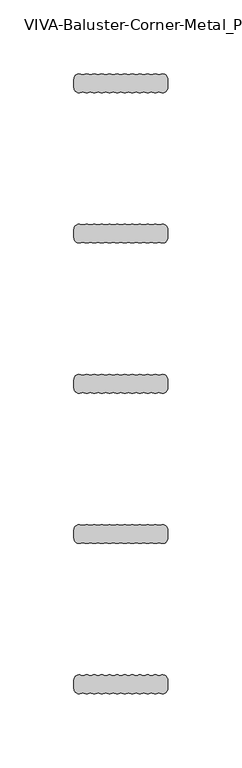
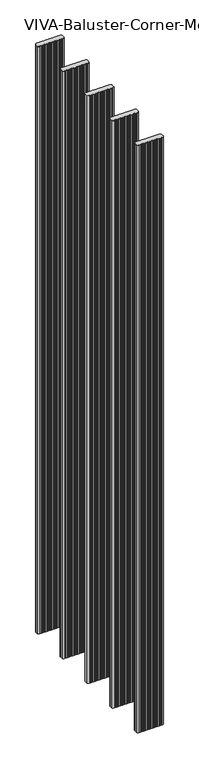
"""IFC4 building model written with IfcOpenShell, lengths in millimetres: railing geometry, VIVA-Baluster-Corner-Metal_Picket : OR1."""

from ifc_helpers import new_model, si_unit, point, frame, frame_2d, origin, place, context, project, spatial, polyline, circle_curve, trimmed, segment, composite_curve, outline, extrude, source, transform, mapped, element, save


def viva_baluster_corner_metal_picket_or1_d017c051(model_context):
    return source(origin(), model_context, "Body", "SweptSolid", [
        extrude(outline(composite_curve([segment(trimmed(circle_curve(frame_2d((53.2043012, -120.5449852)), 3.4374084), [point((51.9173652, -117.3575768))], [point((56.6417096, -120.5449852))], False, "CARTESIAN"), True, "CONTINUOUS"), segment(polyline([(56.6417096, -120.5449852), (56.6417096, -126.3701683)]), True, "CONTINUOUS"), segment(trimmed(circle_curve(frame_2d((53.2043012, -126.3701683)), 3.4374084), [point((56.6417096, -126.3701683))], [point((51.9173652, -129.5575768))], False, "CARTESIAN"), True, "CONTINUOUS"), segment(trimmed(circle_curve(frame_2d((50.6304292, -132.7449852)), 3.4374084), [point((51.9173652, -129.5575768))], [point((49.3434933, -129.5575768))], True, "CARTESIAN"), True, "CONTINUOUS"), segment(trimmed(circle_curve(frame_2d((48.0565573, -126.3701683)), 3.4374084), [point((49.3434933, -129.5575768))], [point((46.7696213, -129.5575768))], False, "CARTESIAN"), True, "CONTINUOUS"), segment(trimmed(circle_curve(frame_2d((45.4826853, -132.7449852)), 3.4374084), [point((46.7696213, -129.5575768))], [point((44.1957493, -129.5575768))], True, "CARTESIAN"), True, "CONTINUOUS"), segment(trimmed(circle_curve(frame_2d((42.9088134, -126.3701683)), 3.4374084), [point((44.1957493, -129.5575768))], [point((41.6218774, -129.5575768))], False, "CARTESIAN"), True, "CONTINUOUS"), segment(trimmed(circle_curve(frame_2d((40.3349414, -132.7449852)), 3.4374084), [point((41.6218774, -129.5575768))], [point((39.0480054, -129.5575768))], True, "CARTESIAN"), True, "CONTINUOUS"), segment(trimmed(circle_curve(frame_2d((37.7610694, -126.3701683)), 3.4374084), [point((39.0480054, -129.5575768))], [point((36.4741335, -129.5575768))], False, "CARTESIAN"), True, "CONTINUOUS"), segment(trimmed(circle_curve(frame_2d((35.1871975, -132.7449852)), 3.4374084), [point((36.4741335, -129.5575768))], [point((33.9002615, -129.5575768))], True, "CARTESIAN"), True, "CONTINUOUS"), segment(trimmed(circle_curve(frame_2d((32.6133255, -126.3701683)), 3.4374084), [point((33.9002615, -129.5575768))], [point((31.3263895, -129.5575768))], False, "CARTESIAN"), True, "CONTINUOUS"), segment(trimmed(circle_curve(frame_2d((30.0394536, -132.7449852)), 3.4374084), [point((31.3263895, -129.5575768))], [point((28.7525176, -129.5575768))], True, "CARTESIAN"), True, "CONTINUOUS"), segment(trimmed(circle_curve(frame_2d((27.4655816, -126.3701683)), 3.4374084), [point((28.7525176, -129.5575768))], [point((26.1786456, -129.5575768))], False, "CARTESIAN"), True, "CONTINUOUS"), segment(trimmed(circle_curve(frame_2d((24.8917096, -132.7449852)), 3.4374084), [point((26.1786456, -129.5575768))], [point((23.6047737, -129.5575768))], True, "CARTESIAN"), True, "CONTINUOUS"), segment(trimmed(circle_curve(frame_2d((22.3178377, -126.3701683)), 3.4374084), [point((23.6047737, -129.5575768))], [point((21.0309017, -129.5575768))], False, "CARTESIAN"), True, "CONTINUOUS"), segment(trimmed(circle_curve(frame_2d((19.7439657, -132.7449852)), 3.4374084), [point((21.0309017, -129.5575768))], [point((18.4570297, -129.5575768))], True, "CARTESIAN"), True, "CONTINUOUS"), segment(trimmed(circle_curve(frame_2d((17.1700938, -126.3701683)), 3.4374084), [point((18.4570297, -129.5575768))], [point((15.8831578, -129.5575768))], False, "CARTESIAN"), True, "CONTINUOUS"), segment(trimmed(circle_curve(frame_2d((14.5962218, -132.7449852)), 3.4374084), [point((15.8831578, -129.5575768))], [point((13.3092858, -129.5575768))], True, "CARTESIAN"), True, "CONTINUOUS"), segment(trimmed(circle_curve(frame_2d((12.0223498, -126.3701683)), 3.4374084), [point((13.3092858, -129.5575768))], [point((10.7354139, -129.5575768))], False, "CARTESIAN"), True, "CONTINUOUS"), segment(trimmed(circle_curve(frame_2d((9.4484779, -132.7449852)), 3.4374084), [point((10.7354139, -129.5575768))], [point((8.1615419, -129.5575768))], True, "CARTESIAN"), True, "CONTINUOUS"), segment(trimmed(circle_curve(frame_2d((6.8746059, -126.3701683)), 3.4374084), [point((8.1615419, -129.5575768))], [point((5.5876699, -129.5575768))], False, "CARTESIAN"), True, "CONTINUOUS"), segment(trimmed(circle_curve(frame_2d((4.3007339, -132.7449852)), 3.4374084), [point((5.5876699, -129.5575768))], [point((3.013798, -129.5575768))], True, "CARTESIAN"), True, "CONTINUOUS"), segment(trimmed(circle_curve(frame_2d((1.726862, -126.3701683)), 3.4374084), [point((3.013798, -129.5575768))], [point((0.439926, -129.5575768))], False, "CARTESIAN"), True, "CONTINUOUS"), segment(trimmed(circle_curve(frame_2d((-0.84701, -132.7449852)), 3.4374084), [point((0.439926, -129.5575768))], [point((-2.133946, -129.5575768))], True, "CARTESIAN"), True, "CONTINUOUS"), segment(trimmed(circle_curve(frame_2d((-3.4208819, -126.3701683)), 3.4374084), [point((-2.133946, -129.5575768))], [point((-6.8582904, -126.3701683))], False, "CARTESIAN"), True, "CONTINUOUS"), segment(polyline([(-6.8582904, -126.3701683), (-6.8582904, -120.5449852)]), True, "CONTINUOUS"), segment(trimmed(circle_curve(frame_2d((-3.4208819, -120.5449852)), 3.4374084), [point((-6.8582904, -120.5449852))], [point((-2.133946, -117.3575768))], False, "CARTESIAN"), True, "CONTINUOUS"), segment(trimmed(circle_curve(frame_2d((-0.84701, -114.1701684)), 3.4374084), [point((-2.133946, -117.3575768))], [point((0.439926, -117.3575768))], True, "CARTESIAN"), True, "CONTINUOUS"), segment(trimmed(circle_curve(frame_2d((1.726862, -120.5449852)), 3.4374084), [point((0.439926, -117.3575768))], [point((3.013798, -117.3575768))], False, "CARTESIAN"), True, "CONTINUOUS"), segment(trimmed(circle_curve(frame_2d((4.3007339, -114.1701684)), 3.4374084), [point((3.013798, -117.3575768))], [point((5.5876699, -117.3575768))], True, "CARTESIAN"), True, "CONTINUOUS"), segment(trimmed(circle_curve(frame_2d((6.8746059, -120.5449852)), 3.4374084), [point((5.5876699, -117.3575768))], [point((8.1615419, -117.3575768))], False, "CARTESIAN"), True, "CONTINUOUS"), segment(trimmed(circle_curve(frame_2d((9.4484779, -114.1701684)), 3.4374084), [point((8.1615419, -117.3575768))], [point((10.7354139, -117.3575768))], True, "CARTESIAN"), True, "CONTINUOUS"), segment(trimmed(circle_curve(frame_2d((12.0223498, -120.5449852)), 3.4374084), [point((10.7354139, -117.3575768))], [point((13.3092858, -117.3575768))], False, "CARTESIAN"), True, "CONTINUOUS"), segment(trimmed(circle_curve(frame_2d((14.5962218, -114.1701684)), 3.4374084), [point((13.3092858, -117.3575768))], [point((15.8831578, -117.3575768))], True, "CARTESIAN"), True, "CONTINUOUS"), segment(trimmed(circle_curve(frame_2d((17.1700938, -120.5449852)), 3.4374084), [point((15.8831578, -117.3575768))], [point((18.4570297, -117.3575768))], False, "CARTESIAN"), True, "CONTINUOUS"), segment(trimmed(circle_curve(frame_2d((19.7439657, -114.1701684)), 3.4374084), [point((18.4570297, -117.3575768))], [point((21.0309017, -117.3575768))], True, "CARTESIAN"), True, "CONTINUOUS"), segment(trimmed(circle_curve(frame_2d((22.3178377, -120.5449852)), 3.4374084), [point((21.0309017, -117.3575768))], [point((23.6047737, -117.3575768))], False, "CARTESIAN"), True, "CONTINUOUS"), segment(trimmed(circle_curve(frame_2d((24.8917096, -114.1701684)), 3.4374084), [point((23.6047737, -117.3575768))], [point((26.1786456, -117.3575768))], True, "CARTESIAN"), True, "CONTINUOUS"), segment(trimmed(circle_curve(frame_2d((27.4655816, -120.5449852)), 3.4374084), [point((26.1786456, -117.3575768))], [point((28.7525176, -117.3575768))], False, "CARTESIAN"), True, "CONTINUOUS"), segment(trimmed(circle_curve(frame_2d((30.0394536, -114.1701683)), 3.4374084), [point((28.7525176, -117.3575768))], [point((31.3263895, -117.3575768))], True, "CARTESIAN"), True, "CONTINUOUS"), segment(trimmed(circle_curve(frame_2d((32.6133255, -120.5449852)), 3.4374084), [point((31.3263895, -117.3575768))], [point((33.9002615, -117.3575768))], False, "CARTESIAN"), True, "CONTINUOUS"), segment(trimmed(circle_curve(frame_2d((35.1871975, -114.1701683)), 3.4374084), [point((33.9002615, -117.3575768))], [point((36.4741335, -117.3575768))], True, "CARTESIAN"), True, "CONTINUOUS"), segment(trimmed(circle_curve(frame_2d((37.7610694, -120.5449852)), 3.4374084), [point((36.4741335, -117.3575768))], [point((39.0480054, -117.3575768))], False, "CARTESIAN"), True, "CONTINUOUS"), segment(trimmed(circle_curve(frame_2d((40.3349414, -114.1701683)), 3.4374084), [point((39.0480054, -117.3575768))], [point((41.6218774, -117.3575768))], True, "CARTESIAN"), True, "CONTINUOUS"), segment(trimmed(circle_curve(frame_2d((42.9088134, -120.5449852)), 3.4374085), [point((41.6218774, -117.3575768))], [point((44.1957493, -117.3575768))], False, "CARTESIAN"), True, "CONTINUOUS"), segment(trimmed(circle_curve(frame_2d((45.4826853, -114.1701683)), 3.4374084), [point((44.1957493, -117.3575768))], [point((46.7696213, -117.3575768))], True, "CARTESIAN"), True, "CONTINUOUS"), segment(trimmed(circle_curve(frame_2d((48.0565573, -120.5449852)), 3.4374084), [point((46.7696213, -117.3575768))], [point((49.3434933, -117.3575768))], False, "CARTESIAN"), True, "CONTINUOUS"), segment(trimmed(circle_curve(frame_2d((50.6304292, -114.1701683)), 3.4374084), [point((49.3434933, -117.3575768))], [point((51.9173652, -117.3575768))], True, "CARTESIAN"), True, "CONTINUOUS")], self_intersect=False)), frame((0.0, 0.0, -245.8945017), z_axis=(0.0, 0.0, 1.0), x_axis=(1.0, 0.0, 0.0)), (0.0, 0.0, 1.0), 1465.0945017),
        extrude(outline(composite_curve([segment(trimmed(circle_curve(frame_2d((53.2043012, -18.9449852)), 3.4374084), [point((51.9173652, -15.7575768))], [point((56.6417096, -18.9449852))], False, "CARTESIAN"), True, "CONTINUOUS"), segment(polyline([(56.6417096, -18.9449852), (56.6417096, -24.7701683)]), True, "CONTINUOUS"), segment(trimmed(circle_curve(frame_2d((53.2043012, -24.7701683)), 3.4374084), [point((56.6417096, -24.7701683))], [point((51.9173652, -27.9575768))], False, "CARTESIAN"), True, "CONTINUOUS"), segment(trimmed(circle_curve(frame_2d((50.6304292, -31.1449852)), 3.4374084), [point((51.9173652, -27.9575768))], [point((49.3434933, -27.9575768))], True, "CARTESIAN"), True, "CONTINUOUS"), segment(trimmed(circle_curve(frame_2d((48.0565573, -24.7701683)), 3.4374084), [point((49.3434933, -27.9575768))], [point((46.7696213, -27.9575768))], False, "CARTESIAN"), True, "CONTINUOUS"), segment(trimmed(circle_curve(frame_2d((45.4826853, -31.1449852)), 3.4374084), [point((46.7696213, -27.9575768))], [point((44.1957493, -27.9575768))], True, "CARTESIAN"), True, "CONTINUOUS"), segment(trimmed(circle_curve(frame_2d((42.9088134, -24.7701683)), 3.4374084), [point((44.1957493, -27.9575768))], [point((41.6218774, -27.9575768))], False, "CARTESIAN"), True, "CONTINUOUS"), segment(trimmed(circle_curve(frame_2d((40.3349414, -31.1449852)), 3.4374084), [point((41.6218774, -27.9575768))], [point((39.0480054, -27.9575768))], True, "CARTESIAN"), True, "CONTINUOUS"), segment(trimmed(circle_curve(frame_2d((37.7610694, -24.7701683)), 3.4374084), [point((39.0480054, -27.9575768))], [point((36.4741335, -27.9575768))], False, "CARTESIAN"), True, "CONTINUOUS"), segment(trimmed(circle_curve(frame_2d((35.1871975, -31.1449852)), 3.4374084), [point((36.4741335, -27.9575768))], [point((33.9002615, -27.9575768))], True, "CARTESIAN"), True, "CONTINUOUS"), segment(trimmed(circle_curve(frame_2d((32.6133255, -24.7701683)), 3.4374084), [point((33.9002615, -27.9575768))], [point((31.3263895, -27.9575768))], False, "CARTESIAN"), True, "CONTINUOUS"), segment(trimmed(circle_curve(frame_2d((30.0394536, -31.1449852)), 3.4374084), [point((31.3263895, -27.9575768))], [point((28.7525176, -27.9575768))], True, "CARTESIAN"), True, "CONTINUOUS"), segment(trimmed(circle_curve(frame_2d((27.4655816, -24.7701683)), 3.4374084), [point((28.7525176, -27.9575768))], [point((26.1786456, -27.9575768))], False, "CARTESIAN"), True, "CONTINUOUS"), segment(trimmed(circle_curve(frame_2d((24.8917096, -31.1449852)), 3.4374084), [point((26.1786456, -27.9575768))], [point((23.6047737, -27.9575768))], True, "CARTESIAN"), True, "CONTINUOUS"), segment(trimmed(circle_curve(frame_2d((22.3178377, -24.7701683)), 3.4374084), [point((23.6047737, -27.9575768))], [point((21.0309017, -27.9575768))], False, "CARTESIAN"), True, "CONTINUOUS"), segment(trimmed(circle_curve(frame_2d((19.7439657, -31.1449852)), 3.4374084), [point((21.0309017, -27.9575768))], [point((18.4570297, -27.9575768))], True, "CARTESIAN"), True, "CONTINUOUS"), segment(trimmed(circle_curve(frame_2d((17.1700938, -24.7701683)), 3.4374084), [point((18.4570297, -27.9575768))], [point((15.8831578, -27.9575768))], False, "CARTESIAN"), True, "CONTINUOUS"), segment(trimmed(circle_curve(frame_2d((14.5962218, -31.1449852)), 3.4374084), [point((15.8831578, -27.9575768))], [point((13.3092858, -27.9575768))], True, "CARTESIAN"), True, "CONTINUOUS"), segment(trimmed(circle_curve(frame_2d((12.0223498, -24.7701683)), 3.4374084), [point((13.3092858, -27.9575768))], [point((10.7354139, -27.9575768))], False, "CARTESIAN"), True, "CONTINUOUS"), segment(trimmed(circle_curve(frame_2d((9.4484779, -31.1449852)), 3.4374084), [point((10.7354139, -27.9575768))], [point((8.1615419, -27.9575768))], True, "CARTESIAN"), True, "CONTINUOUS"), segment(trimmed(circle_curve(frame_2d((6.8746059, -24.7701683)), 3.4374084), [point((8.1615419, -27.9575768))], [point((5.5876699, -27.9575768))], False, "CARTESIAN"), True, "CONTINUOUS"), segment(trimmed(circle_curve(frame_2d((4.3007339, -31.1449852)), 3.4374084), [point((5.5876699, -27.9575768))], [point((3.013798, -27.9575768))], True, "CARTESIAN"), True, "CONTINUOUS"), segment(trimmed(circle_curve(frame_2d((1.726862, -24.7701683)), 3.4374084), [point((3.013798, -27.9575768))], [point((0.439926, -27.9575768))], False, "CARTESIAN"), True, "CONTINUOUS"), segment(trimmed(circle_curve(frame_2d((-0.84701, -31.1449852)), 3.4374084), [point((0.439926, -27.9575768))], [point((-2.133946, -27.9575768))], True, "CARTESIAN"), True, "CONTINUOUS"), segment(trimmed(circle_curve(frame_2d((-3.4208819, -24.7701683)), 3.4374084), [point((-2.133946, -27.9575768))], [point((-6.8582904, -24.7701683))], False, "CARTESIAN"), True, "CONTINUOUS"), segment(polyline([(-6.8582904, -24.7701683), (-6.8582904, -18.9449852)]), True, "CONTINUOUS"), segment(trimmed(circle_curve(frame_2d((-3.4208819, -18.9449852)), 3.4374084), [point((-6.8582904, -18.9449852))], [point((-2.133946, -15.7575768))], False, "CARTESIAN"), True, "CONTINUOUS"), segment(trimmed(circle_curve(frame_2d((-0.84701, -12.5701684)), 3.4374084), [point((-2.133946, -15.7575768))], [point((0.439926, -15.7575768))], True, "CARTESIAN"), True, "CONTINUOUS"), segment(trimmed(circle_curve(frame_2d((1.726862, -18.9449852)), 3.4374084), [point((0.439926, -15.7575768))], [point((3.013798, -15.7575768))], False, "CARTESIAN"), True, "CONTINUOUS"), segment(trimmed(circle_curve(frame_2d((4.3007339, -12.5701684)), 3.4374084), [point((3.013798, -15.7575768))], [point((5.5876699, -15.7575768))], True, "CARTESIAN"), True, "CONTINUOUS"), segment(trimmed(circle_curve(frame_2d((6.8746059, -18.9449852)), 3.4374084), [point((5.5876699, -15.7575768))], [point((8.1615419, -15.7575768))], False, "CARTESIAN"), True, "CONTINUOUS"), segment(trimmed(circle_curve(frame_2d((9.4484779, -12.5701684)), 3.4374084), [point((8.1615419, -15.7575768))], [point((10.7354139, -15.7575768))], True, "CARTESIAN"), True, "CONTINUOUS"), segment(trimmed(circle_curve(frame_2d((12.0223498, -18.9449852)), 3.4374084), [point((10.7354139, -15.7575768))], [point((13.3092858, -15.7575768))], False, "CARTESIAN"), True, "CONTINUOUS"), segment(trimmed(circle_curve(frame_2d((14.5962218, -12.5701683)), 3.4374085), [point((13.3092858, -15.7575768))], [point((15.8831578, -15.7575768))], True, "CARTESIAN"), True, "CONTINUOUS"), segment(trimmed(circle_curve(frame_2d((17.1700938, -18.9449852)), 3.4374084), [point((15.8831578, -15.7575768))], [point((18.4570297, -15.7575768))], False, "CARTESIAN"), True, "CONTINUOUS"), segment(trimmed(circle_curve(frame_2d((19.7439657, -12.5701683)), 3.4374085), [point((18.4570297, -15.7575768))], [point((21.0309017, -15.7575768))], True, "CARTESIAN"), True, "CONTINUOUS"), segment(trimmed(circle_curve(frame_2d((22.3178377, -18.9449852)), 3.4374084), [point((21.0309017, -15.7575768))], [point((23.6047737, -15.7575768))], False, "CARTESIAN"), True, "CONTINUOUS"), segment(trimmed(circle_curve(frame_2d((24.8917096, -12.5701683)), 3.4374085), [point((23.6047737, -15.7575768))], [point((26.1786456, -15.7575768))], True, "CARTESIAN"), True, "CONTINUOUS"), segment(trimmed(circle_curve(frame_2d((27.4655816, -18.9449852)), 3.4374084), [point((26.1786456, -15.7575768))], [point((28.7525176, -15.7575768))], False, "CARTESIAN"), True, "CONTINUOUS"), segment(trimmed(circle_curve(frame_2d((30.0394536, -12.5701683)), 3.4374085), [point((28.7525176, -15.7575768))], [point((31.3263895, -15.7575768))], True, "CARTESIAN"), True, "CONTINUOUS"), segment(trimmed(circle_curve(frame_2d((32.6133255, -18.9449852)), 3.4374084), [point((31.3263895, -15.7575768))], [point((33.9002615, -15.7575768))], False, "CARTESIAN"), True, "CONTINUOUS"), segment(trimmed(circle_curve(frame_2d((35.1871975, -12.5701683)), 3.4374085), [point((33.9002615, -15.7575768))], [point((36.4741335, -15.7575768))], True, "CARTESIAN"), True, "CONTINUOUS"), segment(trimmed(circle_curve(frame_2d((37.7610694, -18.9449852)), 3.4374084), [point((36.4741335, -15.7575768))], [point((39.0480054, -15.7575768))], False, "CARTESIAN"), True, "CONTINUOUS"), segment(trimmed(circle_curve(frame_2d((40.3349414, -12.5701683)), 3.4374085), [point((39.0480054, -15.7575768))], [point((41.6218774, -15.7575768))], True, "CARTESIAN"), True, "CONTINUOUS"), segment(trimmed(circle_curve(frame_2d((42.9088134, -18.9449852)), 3.4374084), [point((41.6218774, -15.7575768))], [point((44.1957493, -15.7575768))], False, "CARTESIAN"), True, "CONTINUOUS"), segment(trimmed(circle_curve(frame_2d((45.4826853, -12.5701683)), 3.4374085), [point((44.1957493, -15.7575768))], [point((46.7696213, -15.7575768))], True, "CARTESIAN"), True, "CONTINUOUS"), segment(trimmed(circle_curve(frame_2d((48.0565573, -18.9449852)), 3.4374084), [point((46.7696213, -15.7575768))], [point((49.3434933, -15.7575768))], False, "CARTESIAN"), True, "CONTINUOUS"), segment(trimmed(circle_curve(frame_2d((50.6304292, -12.5701683)), 3.4374085), [point((49.3434933, -15.7575768))], [point((51.9173652, -15.7575768))], True, "CARTESIAN"), True, "CONTINUOUS")], self_intersect=False)), frame((0.0, 0.0, -245.8945017), z_axis=(0.0, 0.0, 1.0), x_axis=(1.0, 0.0, 0.0)), (0.0, 0.0, 1.0), 1465.0945017),
        extrude(outline(composite_curve([segment(trimmed(circle_curve(frame_2d((53.2043012, 82.6550148)), 3.4374084), [point((51.9173652, 85.8424232))], [point((56.6417096, 82.6550148))], False, "CARTESIAN"), True, "CONTINUOUS"), segment(polyline([(56.6417096, 82.6550148), (56.6417096, 76.8298317)]), True, "CONTINUOUS"), segment(trimmed(circle_curve(frame_2d((53.2043012, 76.8298317)), 3.4374084), [point((56.6417096, 76.8298317))], [point((51.9173652, 73.6424232))], False, "CARTESIAN"), True, "CONTINUOUS"), segment(trimmed(circle_curve(frame_2d((50.6304292, 70.4550148)), 3.4374084), [point((51.9173652, 73.6424232))], [point((49.3434933, 73.6424232))], True, "CARTESIAN"), True, "CONTINUOUS"), segment(trimmed(circle_curve(frame_2d((48.0565573, 76.8298317)), 3.4374084), [point((49.3434933, 73.6424232))], [point((46.7696213, 73.6424232))], False, "CARTESIAN"), True, "CONTINUOUS"), segment(trimmed(circle_curve(frame_2d((45.4826853, 70.4550148)), 3.4374084), [point((46.7696213, 73.6424232))], [point((44.1957493, 73.6424232))], True, "CARTESIAN"), True, "CONTINUOUS"), segment(trimmed(circle_curve(frame_2d((42.9088134, 76.8298317)), 3.4374084), [point((44.1957493, 73.6424232))], [point((41.6218774, 73.6424232))], False, "CARTESIAN"), True, "CONTINUOUS"), segment(trimmed(circle_curve(frame_2d((40.3349414, 70.4550148)), 3.4374084), [point((41.6218774, 73.6424232))], [point((39.0480054, 73.6424232))], True, "CARTESIAN"), True, "CONTINUOUS"), segment(trimmed(circle_curve(frame_2d((37.7610694, 76.8298317)), 3.4374084), [point((39.0480054, 73.6424232))], [point((36.4741335, 73.6424232))], False, "CARTESIAN"), True, "CONTINUOUS"), segment(trimmed(circle_curve(frame_2d((35.1871975, 70.4550148)), 3.4374084), [point((36.4741335, 73.6424232))], [point((33.9002615, 73.6424232))], True, "CARTESIAN"), True, "CONTINUOUS"), segment(trimmed(circle_curve(frame_2d((32.6133255, 76.8298317)), 3.4374084), [point((33.9002615, 73.6424232))], [point((31.3263895, 73.6424232))], False, "CARTESIAN"), True, "CONTINUOUS"), segment(trimmed(circle_curve(frame_2d((30.0394536, 70.4550148)), 3.4374084), [point((31.3263895, 73.6424232))], [point((28.7525176, 73.6424232))], True, "CARTESIAN"), True, "CONTINUOUS"), segment(trimmed(circle_curve(frame_2d((27.4655816, 76.8298317)), 3.4374084), [point((28.7525176, 73.6424232))], [point((26.1786456, 73.6424232))], False, "CARTESIAN"), True, "CONTINUOUS"), segment(trimmed(circle_curve(frame_2d((24.8917096, 70.4550148)), 3.4374084), [point((26.1786456, 73.6424232))], [point((23.6047737, 73.6424232))], True, "CARTESIAN"), True, "CONTINUOUS"), segment(trimmed(circle_curve(frame_2d((22.3178377, 76.8298317)), 3.4374084), [point((23.6047737, 73.6424232))], [point((21.0309017, 73.6424232))], False, "CARTESIAN"), True, "CONTINUOUS"), segment(trimmed(circle_curve(frame_2d((19.7439657, 70.4550148)), 3.4374084), [point((21.0309017, 73.6424232))], [point((18.4570297, 73.6424232))], True, "CARTESIAN"), True, "CONTINUOUS"), segment(trimmed(circle_curve(frame_2d((17.1700938, 76.8298317)), 3.4374084), [point((18.4570297, 73.6424232))], [point((15.8831578, 73.6424232))], False, "CARTESIAN"), True, "CONTINUOUS"), segment(trimmed(circle_curve(frame_2d((14.5962218, 70.4550148)), 3.4374084), [point((15.8831578, 73.6424232))], [point((13.3092858, 73.6424232))], True, "CARTESIAN"), True, "CONTINUOUS"), segment(trimmed(circle_curve(frame_2d((12.0223498, 76.8298317)), 3.4374084), [point((13.3092858, 73.6424232))], [point((10.7354139, 73.6424232))], False, "CARTESIAN"), True, "CONTINUOUS"), segment(trimmed(circle_curve(frame_2d((9.4484779, 70.4550148)), 3.4374084), [point((10.7354139, 73.6424232))], [point((8.1615419, 73.6424232))], True, "CARTESIAN"), True, "CONTINUOUS"), segment(trimmed(circle_curve(frame_2d((6.8746059, 76.8298317)), 3.4374084), [point((8.1615419, 73.6424232))], [point((5.5876699, 73.6424232))], False, "CARTESIAN"), True, "CONTINUOUS"), segment(trimmed(circle_curve(frame_2d((4.3007339, 70.4550148)), 3.4374084), [point((5.5876699, 73.6424232))], [point((3.013798, 73.6424232))], True, "CARTESIAN"), True, "CONTINUOUS"), segment(trimmed(circle_curve(frame_2d((1.726862, 76.8298317)), 3.4374084), [point((3.013798, 73.6424232))], [point((0.439926, 73.6424232))], False, "CARTESIAN"), True, "CONTINUOUS"), segment(trimmed(circle_curve(frame_2d((-0.84701, 70.4550148)), 3.4374084), [point((0.439926, 73.6424232))], [point((-2.133946, 73.6424232))], True, "CARTESIAN"), True, "CONTINUOUS"), segment(trimmed(circle_curve(frame_2d((-3.4208819, 76.8298317)), 3.4374084), [point((-2.133946, 73.6424232))], [point((-6.8582904, 76.8298317))], False, "CARTESIAN"), True, "CONTINUOUS"), segment(polyline([(-6.8582904, 76.8298317), (-6.8582904, 82.6550148)]), True, "CONTINUOUS"), segment(trimmed(circle_curve(frame_2d((-3.4208819, 82.6550148)), 3.4374084), [point((-6.8582904, 82.6550148))], [point((-2.133946, 85.8424232))], False, "CARTESIAN"), True, "CONTINUOUS"), segment(trimmed(circle_curve(frame_2d((-0.84701, 89.0298317)), 3.4374084), [point((-2.133946, 85.8424232))], [point((0.439926, 85.8424232))], True, "CARTESIAN"), True, "CONTINUOUS"), segment(trimmed(circle_curve(frame_2d((1.726862, 82.6550148)), 3.4374084), [point((0.439926, 85.8424232))], [point((3.013798, 85.8424232))], False, "CARTESIAN"), True, "CONTINUOUS"), segment(trimmed(circle_curve(frame_2d((4.3007339, 89.0298317)), 3.4374084), [point((3.013798, 85.8424232))], [point((5.5876699, 85.8424232))], True, "CARTESIAN"), True, "CONTINUOUS"), segment(trimmed(circle_curve(frame_2d((6.8746059, 82.6550148)), 3.4374084), [point((5.5876699, 85.8424232))], [point((8.1615419, 85.8424232))], False, "CARTESIAN"), True, "CONTINUOUS"), segment(trimmed(circle_curve(frame_2d((9.4484779, 89.0298317)), 3.4374084), [point((8.1615419, 85.8424232))], [point((10.7354139, 85.8424232))], True, "CARTESIAN"), True, "CONTINUOUS"), segment(trimmed(circle_curve(frame_2d((12.0223498, 82.6550148)), 3.4374084), [point((10.7354139, 85.8424232))], [point((13.3092858, 85.8424232))], False, "CARTESIAN"), True, "CONTINUOUS"), segment(trimmed(circle_curve(frame_2d((14.5962218, 89.0298317)), 3.4374084), [point((13.3092858, 85.8424232))], [point((15.8831578, 85.8424232))], True, "CARTESIAN"), True, "CONTINUOUS"), segment(trimmed(circle_curve(frame_2d((17.1700938, 82.6550148)), 3.4374084), [point((15.8831578, 85.8424232))], [point((18.4570297, 85.8424232))], False, "CARTESIAN"), True, "CONTINUOUS"), segment(trimmed(circle_curve(frame_2d((19.7439657, 89.0298317)), 3.4374084), [point((18.4570297, 85.8424232))], [point((21.0309017, 85.8424232))], True, "CARTESIAN"), True, "CONTINUOUS"), segment(trimmed(circle_curve(frame_2d((22.3178377, 82.6550148)), 3.4374084), [point((21.0309017, 85.8424232))], [point((23.6047737, 85.8424232))], False, "CARTESIAN"), True, "CONTINUOUS"), segment(trimmed(circle_curve(frame_2d((24.8917096, 89.0298317)), 3.4374084), [point((23.6047737, 85.8424232))], [point((26.1786456, 85.8424232))], True, "CARTESIAN"), True, "CONTINUOUS"), segment(trimmed(circle_curve(frame_2d((27.4655816, 82.6550148)), 3.4374084), [point((26.1786456, 85.8424232))], [point((28.7525176, 85.8424232))], False, "CARTESIAN"), True, "CONTINUOUS"), segment(trimmed(circle_curve(frame_2d((30.0394536, 89.0298317)), 3.4374084), [point((28.7525176, 85.8424232))], [point((31.3263895, 85.8424232))], True, "CARTESIAN"), True, "CONTINUOUS"), segment(trimmed(circle_curve(frame_2d((32.6133255, 82.6550148)), 3.4374084), [point((31.3263895, 85.8424232))], [point((33.9002615, 85.8424232))], False, "CARTESIAN"), True, "CONTINUOUS"), segment(trimmed(circle_curve(frame_2d((35.1871975, 89.0298317)), 3.4374084), [point((33.9002615, 85.8424232))], [point((36.4741335, 85.8424232))], True, "CARTESIAN"), True, "CONTINUOUS"), segment(trimmed(circle_curve(frame_2d((37.7610694, 82.6550148)), 3.4374084), [point((36.4741335, 85.8424232))], [point((39.0480054, 85.8424232))], False, "CARTESIAN"), True, "CONTINUOUS"), segment(trimmed(circle_curve(frame_2d((40.3349414, 89.0298317)), 3.4374084), [point((39.0480054, 85.8424232))], [point((41.6218774, 85.8424232))], True, "CARTESIAN"), True, "CONTINUOUS"), segment(trimmed(circle_curve(frame_2d((42.9088134, 82.6550148)), 3.4374084), [point((41.6218774, 85.8424232))], [point((44.1957493, 85.8424232))], False, "CARTESIAN"), True, "CONTINUOUS"), segment(trimmed(circle_curve(frame_2d((45.4826853, 89.0298317)), 3.4374084), [point((44.1957493, 85.8424232))], [point((46.7696213, 85.8424232))], True, "CARTESIAN"), True, "CONTINUOUS"), segment(trimmed(circle_curve(frame_2d((48.0565573, 82.6550148)), 3.4374084), [point((46.7696213, 85.8424232))], [point((49.3434933, 85.8424232))], False, "CARTESIAN"), True, "CONTINUOUS"), segment(trimmed(circle_curve(frame_2d((50.6304292, 89.0298317)), 3.4374084), [point((49.3434933, 85.8424232))], [point((51.9173652, 85.8424232))], True, "CARTESIAN"), True, "CONTINUOUS")], self_intersect=False)), frame((0.0, 0.0, -245.8945017), z_axis=(0.0, 0.0, 1.0), x_axis=(1.0, 0.0, 0.0)), (0.0, 0.0, 1.0), 1465.0945017),
        extrude(outline(composite_curve([segment(trimmed(circle_curve(frame_2d((53.2043012, 184.2550148)), 3.4374084), [point((51.9173652, 187.4424232))], [point((56.6417096, 184.2550148))], False, "CARTESIAN"), True, "CONTINUOUS"), segment(polyline([(56.6417096, 184.2550148), (56.6417096, 178.4298317)]), True, "CONTINUOUS"), segment(trimmed(circle_curve(frame_2d((53.2043012, 178.4298317)), 3.4374084), [point((56.6417096, 178.4298317))], [point((51.9173652, 175.2424232))], False, "CARTESIAN"), True, "CONTINUOUS"), segment(trimmed(circle_curve(frame_2d((50.6304292, 172.0550148)), 3.4374084), [point((51.9173652, 175.2424232))], [point((49.3434933, 175.2424232))], True, "CARTESIAN"), True, "CONTINUOUS"), segment(trimmed(circle_curve(frame_2d((48.0565573, 178.4298317)), 3.4374084), [point((49.3434933, 175.2424232))], [point((46.7696213, 175.2424232))], False, "CARTESIAN"), True, "CONTINUOUS"), segment(trimmed(circle_curve(frame_2d((45.4826853, 172.0550148)), 3.4374084), [point((46.7696213, 175.2424232))], [point((44.1957493, 175.2424232))], True, "CARTESIAN"), True, "CONTINUOUS"), segment(trimmed(circle_curve(frame_2d((42.9088134, 178.4298317)), 3.4374084), [point((44.1957493, 175.2424232))], [point((41.6218774, 175.2424232))], False, "CARTESIAN"), True, "CONTINUOUS"), segment(trimmed(circle_curve(frame_2d((40.3349414, 172.0550148)), 3.4374084), [point((41.6218774, 175.2424232))], [point((39.0480054, 175.2424232))], True, "CARTESIAN"), True, "CONTINUOUS"), segment(trimmed(circle_curve(frame_2d((37.7610694, 178.4298317)), 3.4374084), [point((39.0480054, 175.2424232))], [point((36.4741335, 175.2424232))], False, "CARTESIAN"), True, "CONTINUOUS"), segment(trimmed(circle_curve(frame_2d((35.1871975, 172.0550148)), 3.4374084), [point((36.4741335, 175.2424232))], [point((33.9002615, 175.2424232))], True, "CARTESIAN"), True, "CONTINUOUS"), segment(trimmed(circle_curve(frame_2d((32.6133255, 178.4298317)), 3.4374084), [point((33.9002615, 175.2424232))], [point((31.3263895, 175.2424232))], False, "CARTESIAN"), True, "CONTINUOUS"), segment(trimmed(circle_curve(frame_2d((30.0394536, 172.0550148)), 3.4374084), [point((31.3263895, 175.2424232))], [point((28.7525176, 175.2424232))], True, "CARTESIAN"), True, "CONTINUOUS"), segment(trimmed(circle_curve(frame_2d((27.4655816, 178.4298317)), 3.4374084), [point((28.7525176, 175.2424232))], [point((26.1786456, 175.2424232))], False, "CARTESIAN"), True, "CONTINUOUS"), segment(trimmed(circle_curve(frame_2d((24.8917096, 172.0550148)), 3.4374084), [point((26.1786456, 175.2424232))], [point((23.6047737, 175.2424232))], True, "CARTESIAN"), True, "CONTINUOUS"), segment(trimmed(circle_curve(frame_2d((22.3178377, 178.4298317)), 3.4374084), [point((23.6047737, 175.2424232))], [point((21.0309017, 175.2424232))], False, "CARTESIAN"), True, "CONTINUOUS"), segment(trimmed(circle_curve(frame_2d((19.7439657, 172.0550148)), 3.4374084), [point((21.0309017, 175.2424232))], [point((18.4570297, 175.2424232))], True, "CARTESIAN"), True, "CONTINUOUS"), segment(trimmed(circle_curve(frame_2d((17.1700938, 178.4298317)), 3.4374084), [point((18.4570297, 175.2424232))], [point((15.8831578, 175.2424232))], False, "CARTESIAN"), True, "CONTINUOUS"), segment(trimmed(circle_curve(frame_2d((14.5962218, 172.0550148)), 3.4374084), [point((15.8831578, 175.2424232))], [point((13.3092858, 175.2424232))], True, "CARTESIAN"), True, "CONTINUOUS"), segment(trimmed(circle_curve(frame_2d((12.0223498, 178.4298317)), 3.4374084), [point((13.3092858, 175.2424232))], [point((10.7354138, 175.2424232))], False, "CARTESIAN"), True, "CONTINUOUS"), segment(trimmed(circle_curve(frame_2d((9.4484779, 172.0550148)), 3.4374084), [point((10.7354138, 175.2424232))], [point((8.1615419, 175.2424232))], True, "CARTESIAN"), True, "CONTINUOUS"), segment(trimmed(circle_curve(frame_2d((6.8746059, 178.4298317)), 3.4374084), [point((8.1615419, 175.2424232))], [point((5.5876699, 175.2424232))], False, "CARTESIAN"), True, "CONTINUOUS"), segment(trimmed(circle_curve(frame_2d((4.3007339, 172.0550148)), 3.4374084), [point((5.5876699, 175.2424232))], [point((3.013798, 175.2424232))], True, "CARTESIAN"), True, "CONTINUOUS"), segment(trimmed(circle_curve(frame_2d((1.726862, 178.4298317)), 3.4374084), [point((3.013798, 175.2424232))], [point((0.439926, 175.2424232))], False, "CARTESIAN"), True, "CONTINUOUS"), segment(trimmed(circle_curve(frame_2d((-0.84701, 172.0550148)), 3.4374084), [point((0.439926, 175.2424232))], [point((-2.133946, 175.2424232))], True, "CARTESIAN"), True, "CONTINUOUS"), segment(trimmed(circle_curve(frame_2d((-3.4208819, 178.4298317)), 3.4374084), [point((-2.133946, 175.2424232))], [point((-6.8582904, 178.4298317))], False, "CARTESIAN"), True, "CONTINUOUS"), segment(polyline([(-6.8582904, 178.4298317), (-6.8582904, 184.2550148)]), True, "CONTINUOUS"), segment(trimmed(circle_curve(frame_2d((-3.4208819, 184.2550148)), 3.4374084), [point((-6.8582904, 184.2550148))], [point((-2.1339459, 187.4424232))], False, "CARTESIAN"), True, "CONTINUOUS"), segment(trimmed(circle_curve(frame_2d((-0.84701, 190.6298316)), 3.4374084), [point((-2.1339459, 187.4424232))], [point((0.439926, 187.4424232))], True, "CARTESIAN"), True, "CONTINUOUS"), segment(trimmed(circle_curve(frame_2d((1.726862, 184.2550148)), 3.4374084), [point((0.439926, 187.4424232))], [point((3.013798, 187.4424232))], False, "CARTESIAN"), True, "CONTINUOUS"), segment(trimmed(circle_curve(frame_2d((4.3007339, 190.6298316)), 3.4374084), [point((3.013798, 187.4424232))], [point((5.5876699, 187.4424232))], True, "CARTESIAN"), True, "CONTINUOUS"), segment(trimmed(circle_curve(frame_2d((6.8746059, 184.2550148)), 3.4374084), [point((5.5876699, 187.4424232))], [point((8.1615419, 187.4424232))], False, "CARTESIAN"), True, "CONTINUOUS"), segment(trimmed(circle_curve(frame_2d((9.4484779, 190.6298316)), 3.4374084), [point((8.1615419, 187.4424232))], [point((10.7354139, 187.4424232))], True, "CARTESIAN"), True, "CONTINUOUS"), segment(trimmed(circle_curve(frame_2d((12.0223498, 184.2550148)), 3.4374084), [point((10.7354139, 187.4424232))], [point((13.3092858, 187.4424232))], False, "CARTESIAN"), True, "CONTINUOUS"), segment(trimmed(circle_curve(frame_2d((14.5962218, 190.6298317)), 3.4374084), [point((13.3092858, 187.4424232))], [point((15.8831578, 187.4424232))], True, "CARTESIAN"), True, "CONTINUOUS"), segment(trimmed(circle_curve(frame_2d((17.1700938, 184.2550148)), 3.4374084), [point((15.8831578, 187.4424232))], [point((18.4570297, 187.4424232))], False, "CARTESIAN"), True, "CONTINUOUS"), segment(trimmed(circle_curve(frame_2d((19.7439657, 190.6298317)), 3.4374084), [point((18.4570297, 187.4424232))], [point((21.0309017, 187.4424232))], True, "CARTESIAN"), True, "CONTINUOUS"), segment(trimmed(circle_curve(frame_2d((22.3178377, 184.2550148)), 3.4374084), [point((21.0309017, 187.4424232))], [point((23.6047737, 187.4424232))], False, "CARTESIAN"), True, "CONTINUOUS"), segment(trimmed(circle_curve(frame_2d((24.8917096, 190.6298317)), 3.4374084), [point((23.6047737, 187.4424232))], [point((26.1786456, 187.4424232))], True, "CARTESIAN"), True, "CONTINUOUS"), segment(trimmed(circle_curve(frame_2d((27.4655816, 184.2550148)), 3.4374084), [point((26.1786456, 187.4424232))], [point((28.7525176, 187.4424232))], False, "CARTESIAN"), True, "CONTINUOUS"), segment(trimmed(circle_curve(frame_2d((30.0394536, 190.6298317)), 3.4374084), [point((28.7525176, 187.4424232))], [point((31.3263895, 187.4424232))], True, "CARTESIAN"), True, "CONTINUOUS"), segment(trimmed(circle_curve(frame_2d((32.6133255, 184.2550148)), 3.4374084), [point((31.3263895, 187.4424232))], [point((33.9002615, 187.4424232))], False, "CARTESIAN"), True, "CONTINUOUS"), segment(trimmed(circle_curve(frame_2d((35.1871975, 190.6298317)), 3.4374084), [point((33.9002615, 187.4424232))], [point((36.4741335, 187.4424232))], True, "CARTESIAN"), True, "CONTINUOUS"), segment(trimmed(circle_curve(frame_2d((37.7610694, 184.2550148)), 3.4374084), [point((36.4741335, 187.4424232))], [point((39.0480054, 187.4424232))], False, "CARTESIAN"), True, "CONTINUOUS"), segment(trimmed(circle_curve(frame_2d((40.3349414, 190.6298317)), 3.4374084), [point((39.0480054, 187.4424232))], [point((41.6218774, 187.4424232))], True, "CARTESIAN"), True, "CONTINUOUS"), segment(trimmed(circle_curve(frame_2d((42.9088134, 184.2550148)), 3.4374084), [point((41.6218774, 187.4424232))], [point((44.1957493, 187.4424232))], False, "CARTESIAN"), True, "CONTINUOUS"), segment(trimmed(circle_curve(frame_2d((45.4826853, 190.6298317)), 3.4374084), [point((44.1957493, 187.4424232))], [point((46.7696213, 187.4424232))], True, "CARTESIAN"), True, "CONTINUOUS"), segment(trimmed(circle_curve(frame_2d((48.0565573, 184.2550148)), 3.4374084), [point((46.7696213, 187.4424232))], [point((49.3434933, 187.4424232))], False, "CARTESIAN"), True, "CONTINUOUS"), segment(trimmed(circle_curve(frame_2d((50.6304292, 190.6298317)), 3.4374084), [point((49.3434933, 187.4424232))], [point((51.9173652, 187.4424232))], True, "CARTESIAN"), True, "CONTINUOUS")], self_intersect=False)), frame((0.0, 0.0, -245.8945017), z_axis=(0.0, 0.0, 1.0), x_axis=(1.0, 0.0, 0.0)), (0.0, 0.0, 1.0), 1465.0945017),
        extrude(outline(composite_curve([segment(trimmed(circle_curve(frame_2d((53.2043012, 285.8550148)), 3.4374084), [point((51.9173652, 289.0424232))], [point((56.6417096, 285.8550148))], False, "CARTESIAN"), True, "CONTINUOUS"), segment(polyline([(56.6417096, 285.8550148), (56.6417096, 280.0298317)]), True, "CONTINUOUS"), segment(trimmed(circle_curve(frame_2d((53.2043012, 280.0298317)), 3.4374084), [point((56.6417096, 280.0298317))], [point((51.9173652, 276.8424232))], False, "CARTESIAN"), True, "CONTINUOUS"), segment(trimmed(circle_curve(frame_2d((50.6304292, 273.6550148)), 3.4374084), [point((51.9173652, 276.8424232))], [point((49.3434933, 276.8424232))], True, "CARTESIAN"), True, "CONTINUOUS"), segment(trimmed(circle_curve(frame_2d((48.0565573, 280.0298317)), 3.4374084), [point((49.3434933, 276.8424232))], [point((46.7696213, 276.8424232))], False, "CARTESIAN"), True, "CONTINUOUS"), segment(trimmed(circle_curve(frame_2d((45.4826853, 273.6550148)), 3.4374084), [point((46.7696213, 276.8424232))], [point((44.1957493, 276.8424232))], True, "CARTESIAN"), True, "CONTINUOUS"), segment(trimmed(circle_curve(frame_2d((42.9088134, 280.0298317)), 3.4374084), [point((44.1957493, 276.8424232))], [point((41.6218774, 276.8424232))], False, "CARTESIAN"), True, "CONTINUOUS"), segment(trimmed(circle_curve(frame_2d((40.3349414, 273.6550148)), 3.4374084), [point((41.6218774, 276.8424232))], [point((39.0480054, 276.8424232))], True, "CARTESIAN"), True, "CONTINUOUS"), segment(trimmed(circle_curve(frame_2d((37.7610694, 280.0298317)), 3.4374084), [point((39.0480054, 276.8424232))], [point((36.4741335, 276.8424232))], False, "CARTESIAN"), True, "CONTINUOUS"), segment(trimmed(circle_curve(frame_2d((35.1871975, 273.6550148)), 3.4374084), [point((36.4741335, 276.8424232))], [point((33.9002615, 276.8424232))], True, "CARTESIAN"), True, "CONTINUOUS"), segment(trimmed(circle_curve(frame_2d((32.6133255, 280.0298317)), 3.4374084), [point((33.9002615, 276.8424232))], [point((31.3263895, 276.8424232))], False, "CARTESIAN"), True, "CONTINUOUS"), segment(trimmed(circle_curve(frame_2d((30.0394536, 273.6550148)), 3.4374084), [point((31.3263895, 276.8424232))], [point((28.7525176, 276.8424232))], True, "CARTESIAN"), True, "CONTINUOUS"), segment(trimmed(circle_curve(frame_2d((27.4655816, 280.0298317)), 3.4374084), [point((28.7525176, 276.8424232))], [point((26.1786456, 276.8424232))], False, "CARTESIAN"), True, "CONTINUOUS"), segment(trimmed(circle_curve(frame_2d((24.8917096, 273.6550148)), 3.4374084), [point((26.1786456, 276.8424232))], [point((23.6047737, 276.8424232))], True, "CARTESIAN"), True, "CONTINUOUS"), segment(trimmed(circle_curve(frame_2d((22.3178377, 280.0298317)), 3.4374084), [point((23.6047737, 276.8424232))], [point((21.0309017, 276.8424232))], False, "CARTESIAN"), True, "CONTINUOUS"), segment(trimmed(circle_curve(frame_2d((19.7439657, 273.6550148)), 3.4374084), [point((21.0309017, 276.8424232))], [point((18.4570297, 276.8424232))], True, "CARTESIAN"), True, "CONTINUOUS"), segment(trimmed(circle_curve(frame_2d((17.1700938, 280.0298317)), 3.4374084), [point((18.4570297, 276.8424232))], [point((15.8831578, 276.8424232))], False, "CARTESIAN"), True, "CONTINUOUS"), segment(trimmed(circle_curve(frame_2d((14.5962218, 273.6550148)), 3.4374084), [point((15.8831578, 276.8424232))], [point((13.3092858, 276.8424232))], True, "CARTESIAN"), True, "CONTINUOUS"), segment(trimmed(circle_curve(frame_2d((12.0223498, 280.0298317)), 3.4374084), [point((13.3092858, 276.8424232))], [point((10.7354138, 276.8424232))], False, "CARTESIAN"), True, "CONTINUOUS"), segment(trimmed(circle_curve(frame_2d((9.4484779, 273.6550148)), 3.4374084), [point((10.7354138, 276.8424232))], [point((8.1615419, 276.8424232))], True, "CARTESIAN"), True, "CONTINUOUS"), segment(trimmed(circle_curve(frame_2d((6.8746059, 280.0298317)), 3.4374084), [point((8.1615419, 276.8424232))], [point((5.5876699, 276.8424232))], False, "CARTESIAN"), True, "CONTINUOUS"), segment(trimmed(circle_curve(frame_2d((4.3007339, 273.6550148)), 3.4374084), [point((5.5876699, 276.8424232))], [point((3.013798, 276.8424232))], True, "CARTESIAN"), True, "CONTINUOUS"), segment(trimmed(circle_curve(frame_2d((1.726862, 280.0298317)), 3.4374084), [point((3.013798, 276.8424232))], [point((0.439926, 276.8424232))], False, "CARTESIAN"), True, "CONTINUOUS"), segment(trimmed(circle_curve(frame_2d((-0.84701, 273.6550148)), 3.4374084), [point((0.439926, 276.8424232))], [point((-2.133946, 276.8424232))], True, "CARTESIAN"), True, "CONTINUOUS"), segment(trimmed(circle_curve(frame_2d((-3.4208819, 280.0298317)), 3.4374084), [point((-2.133946, 276.8424232))], [point((-6.8582904, 280.0298317))], False, "CARTESIAN"), True, "CONTINUOUS"), segment(polyline([(-6.8582904, 280.0298317), (-6.8582904, 285.8550148)]), True, "CONTINUOUS"), segment(trimmed(circle_curve(frame_2d((-3.4208819, 285.8550148)), 3.4374084), [point((-6.8582904, 285.8550148))], [point((-2.133946, 289.0424232))], False, "CARTESIAN"), True, "CONTINUOUS"), segment(trimmed(circle_curve(frame_2d((-0.84701, 292.2298316)), 3.4374084), [point((-2.133946, 289.0424232))], [point((0.439926, 289.0424232))], True, "CARTESIAN"), True, "CONTINUOUS"), segment(trimmed(circle_curve(frame_2d((1.726862, 285.8550148)), 3.4374084), [point((0.439926, 289.0424232))], [point((3.013798, 289.0424232))], False, "CARTESIAN"), True, "CONTINUOUS"), segment(trimmed(circle_curve(frame_2d((4.3007339, 292.2298316)), 3.4374084), [point((3.013798, 289.0424232))], [point((5.5876699, 289.0424232))], True, "CARTESIAN"), True, "CONTINUOUS"), segment(trimmed(circle_curve(frame_2d((6.8746059, 285.8550148)), 3.4374084), [point((5.5876699, 289.0424232))], [point((8.1615419, 289.0424232))], False, "CARTESIAN"), True, "CONTINUOUS"), segment(trimmed(circle_curve(frame_2d((9.4484779, 292.2298317)), 3.4374084), [point((8.1615419, 289.0424232))], [point((10.7354139, 289.0424232))], True, "CARTESIAN"), True, "CONTINUOUS"), segment(trimmed(circle_curve(frame_2d((12.0223498, 285.8550148)), 3.4374084), [point((10.7354139, 289.0424232))], [point((13.3092858, 289.0424232))], False, "CARTESIAN"), True, "CONTINUOUS"), segment(trimmed(circle_curve(frame_2d((14.5962218, 292.2298317)), 3.4374084), [point((13.3092858, 289.0424232))], [point((15.8831578, 289.0424232))], True, "CARTESIAN"), True, "CONTINUOUS"), segment(trimmed(circle_curve(frame_2d((17.1700938, 285.8550148)), 3.4374084), [point((15.8831578, 289.0424232))], [point((18.4570297, 289.0424232))], False, "CARTESIAN"), True, "CONTINUOUS"), segment(trimmed(circle_curve(frame_2d((19.7439657, 292.2298317)), 3.4374084), [point((18.4570297, 289.0424232))], [point((21.0309017, 289.0424232))], True, "CARTESIAN"), True, "CONTINUOUS"), segment(trimmed(circle_curve(frame_2d((22.3178377, 285.8550148)), 3.4374084), [point((21.0309017, 289.0424232))], [point((23.6047737, 289.0424232))], False, "CARTESIAN"), True, "CONTINUOUS"), segment(trimmed(circle_curve(frame_2d((24.8917096, 292.2298317)), 3.4374084), [point((23.6047737, 289.0424232))], [point((26.1786456, 289.0424232))], True, "CARTESIAN"), True, "CONTINUOUS"), segment(trimmed(circle_curve(frame_2d((27.4655816, 285.8550148)), 3.4374084), [point((26.1786456, 289.0424232))], [point((28.7525176, 289.0424232))], False, "CARTESIAN"), True, "CONTINUOUS"), segment(trimmed(circle_curve(frame_2d((30.0394536, 292.2298317)), 3.4374084), [point((28.7525176, 289.0424232))], [point((31.3263895, 289.0424232))], True, "CARTESIAN"), True, "CONTINUOUS"), segment(trimmed(circle_curve(frame_2d((32.6133255, 285.8550148)), 3.4374084), [point((31.3263895, 289.0424232))], [point((33.9002615, 289.0424232))], False, "CARTESIAN"), True, "CONTINUOUS"), segment(trimmed(circle_curve(frame_2d((35.1871975, 292.2298317)), 3.4374084), [point((33.9002615, 289.0424232))], [point((36.4741335, 289.0424232))], True, "CARTESIAN"), True, "CONTINUOUS"), segment(trimmed(circle_curve(frame_2d((37.7610694, 285.8550148)), 3.4374084), [point((36.4741335, 289.0424232))], [point((39.0480054, 289.0424232))], False, "CARTESIAN"), True, "CONTINUOUS"), segment(trimmed(circle_curve(frame_2d((40.3349414, 292.2298317)), 3.4374084), [point((39.0480054, 289.0424232))], [point((41.6218774, 289.0424232))], True, "CARTESIAN"), True, "CONTINUOUS"), segment(trimmed(circle_curve(frame_2d((42.9088134, 285.8550148)), 3.4374084), [point((41.6218774, 289.0424232))], [point((44.1957493, 289.0424232))], False, "CARTESIAN"), True, "CONTINUOUS"), segment(trimmed(circle_curve(frame_2d((45.4826853, 292.2298317)), 3.4374084), [point((44.1957493, 289.0424232))], [point((46.7696213, 289.0424232))], True, "CARTESIAN"), True, "CONTINUOUS"), segment(trimmed(circle_curve(frame_2d((48.0565573, 285.8550148)), 3.4374084), [point((46.7696213, 289.0424232))], [point((49.3434933, 289.0424232))], False, "CARTESIAN"), True, "CONTINUOUS"), segment(trimmed(circle_curve(frame_2d((50.6304292, 292.2298317)), 3.4374084), [point((49.3434933, 289.0424232))], [point((51.9173652, 289.0424232))], True, "CARTESIAN"), True, "CONTINUOUS")], self_intersect=False)), frame((0.0, 0.0, -245.8945017), z_axis=(0.0, 0.0, 1.0), x_axis=(1.0, 0.0, 0.0)), (0.0, 0.0, 1.0), 1465.0945017),
    ])


if __name__ == "__main__":
    model = new_model("IFC4")
    model_context = context("Model", 3, world=origin())
    ifc_project = project(units=[si_unit("LENGTHUNIT", "METRE", prefix="MILLI")], contexts=[model_context])
    site = spatial("IfcSite", under=ifc_project)
    building = spatial("IfcBuilding", under=site)
    placement = place(None, origin())
    viva_baluster_corner_metal_picket_or1_shape = viva_baluster_corner_metal_picket_or1_d017c051(model_context)
    element("IfcRailing", 1, ObjectType="VIVA-Baluster-Corner-Metal_Picket : OR1", at=placement, inside=building, context=model_context, shape_type="MappedRepresentation", body=[
        mapped(viva_baluster_corner_metal_picket_or1_shape, transform((0.0, 0.0, 0.0), x_axis=(1.0, 0.0, 0.0), y_axis=(0.0, 1.0, 0.0), z_axis=(0.0, 0.0, 1.0))),
    ])
    save(model, "model.ifc")
